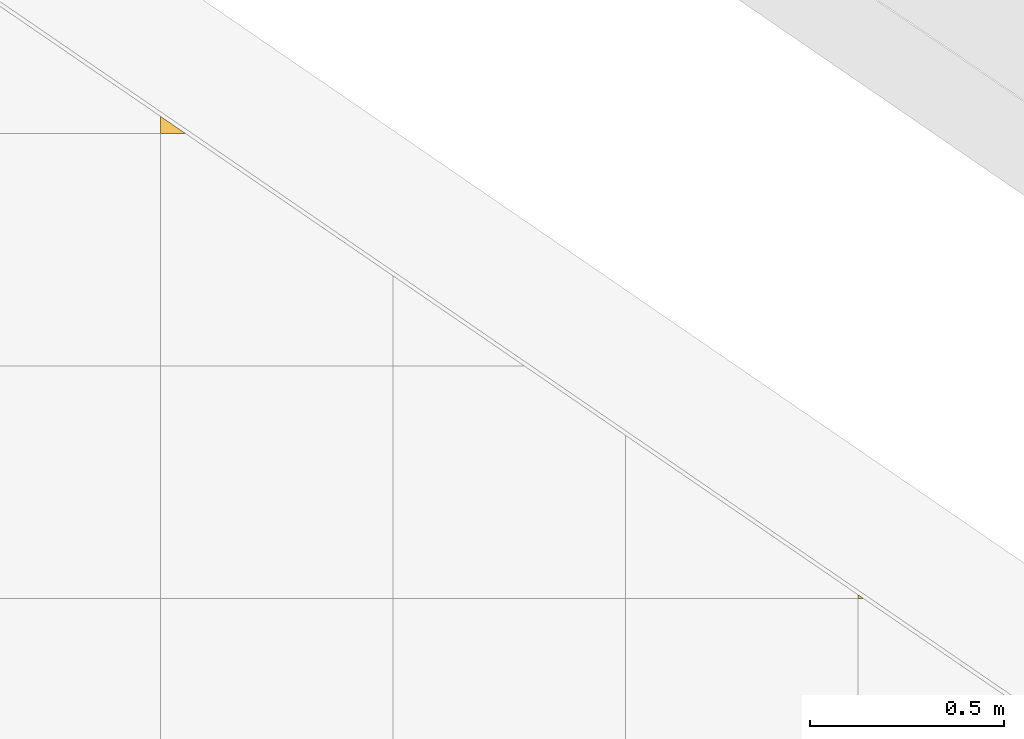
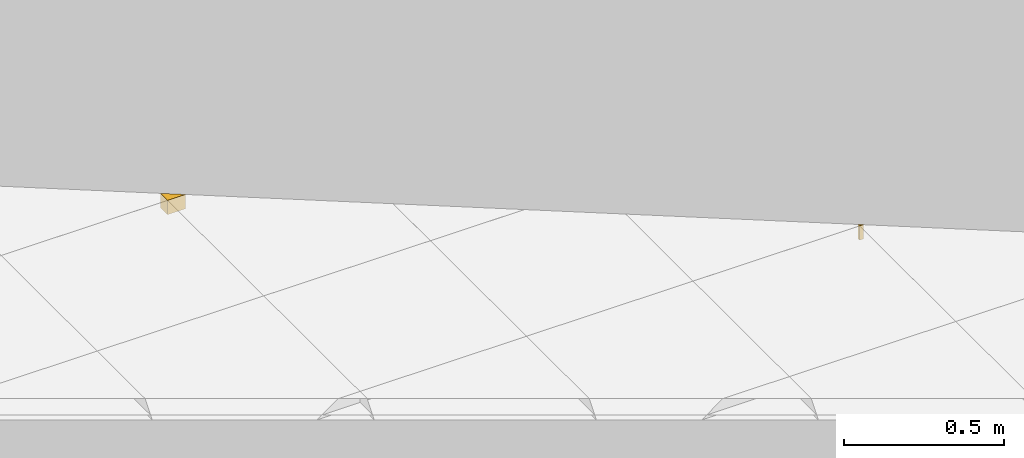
# One storey, part 201 of 246: 2 coverings.
"""IFC2X3 building model written with IfcOpenShell, lengths in millimetres."""

import ifcopenshell
import ifcopenshell.guid

model = None  # the IFC model being written
_history = None  # IfcOwnerHistory: only IFC2X3 demands one
_inside = {}  # id of a spatial element -> (the spatial element, [elements in it])
_under = {}  # id of a project, library or spatial element -> (it, [spatial elements below it])
_declared = {}  # id of a project -> (the project, [libraries it declares])
_typed = {}  # id of a type object -> (the type object, [elements of that type])
_made_of = {}  # id of a material, layer set ... -> (it, [elements and type objects made of it])


def new_model(schema):
    """Start an empty IFC model of exactly this schema.

    Asked for "IFC4X3", IfcOpenShell would pick the latest addendum, in which some entities
    have other attributes; the version numbers below select the first issue.
    IFC2X3 requires an IfcOwnerHistory on every rooted entity: one is made here for all.
    """
    global model, _history
    if schema == "IFC4X3":
        model = ifcopenshell.file(schema_version=(4, 3, 0, 0))
    else:
        model = ifcopenshell.file(schema=schema)
    _inside.clear()
    _under.clear()
    _declared.clear()
    _typed.clear()
    _made_of.clear()
    _history = None
    if model.schema == "IFC2X3":
        org = make("IfcOrganization", Name="unknown")
        user = make(
            "IfcPersonAndOrganization",
            ThePerson=make("IfcPerson", FamilyName="unknown"),
            TheOrganization=org,
        )
        app = make(
            "IfcApplication",
            ApplicationDeveloper=org,
            Version="unknown",
            ApplicationFullName="unknown",
            ApplicationIdentifier="unknown",
        )
        _history = make(
            "IfcOwnerHistory",
            OwningUser=user,
            OwningApplication=app,
            ChangeAction="ADDED",
            CreationDate=0,
        )
    return model


def make(cls, **values):
    """One entity of the class cls with the attributes given. An attribute that is None is left unset."""
    return model.create_entity(
        cls, **{name: value for name, value in values.items() if value is not None}
    )


def entity(cls, *values):
    """Any entity or typed value of the class cls, its attributes in the order of the schema. None: left unset."""
    e = model.create_entity(cls)
    for i, value in enumerate(values):
        if value is not None:
            e[i] = value
    return e


def rooted(cls, **values):
    """An entity with a GlobalId (a new one), such as an element, a storey or a relation."""
    return make(cls, GlobalId=ifcopenshell.guid.new(), OwnerHistory=_history, **values)


def si_unit(unit_type, name, prefix=None):
    """IfcSIUnit, for example si_unit("LENGTHUNIT", "METRE", prefix="MILLI")."""
    return make("IfcSIUnit", UnitType=unit_type, Prefix=prefix, Name=name)


def converted_unit(unit_type, name, factor, base, dimensions=None, offset=None):
    """IfcConversionBasedUnit, such as the inch: factor (a typed value) times the base unit."""
    return make(
        "IfcConversionBasedUnit"
        if offset is None
        else "IfcConversionBasedUnitWithOffset",
        ConversionOffset=offset,
        Dimensions=None
        if dimensions is None
        else entity("IfcDimensionalExponents", *dimensions),
        UnitType=unit_type,
        Name=name,
        ConversionFactor=make(
            "IfcMeasureWithUnit", ValueComponent=factor, UnitComponent=base
        ),
    )


def derived_unit(unit_type, elements):
    """IfcDerivedUnit: a product of units, each with its exponent."""
    return make(
        "IfcDerivedUnit",
        Elements=[
            make("IfcDerivedUnitElement", Unit=unit, Exponent=power)
            for unit, power in elements
        ],
        UnitType=unit_type,
    )


def money_unit(currency):
    """IfcMonetaryUnit."""
    return make("IfcMonetaryUnit", Currency=currency)


def assignment(units):
    """IfcUnitAssignment: the units of a project."""
    return None if units is None else make("IfcUnitAssignment", Units=units)


def point(xyz):
    """IfcCartesianPoint."""
    return None if xyz is None else make("IfcCartesianPoint", Coordinates=xyz)


def direction(xyz):
    """IfcDirection."""
    return None if xyz is None else make("IfcDirection", DirectionRatios=xyz)


def frame(location, z_axis=None, x_axis=None):
    """IfcAxis2Placement3D, a coordinate frame: its origin and axes. An axis left out is left unset."""
    return make(
        "IfcAxis2Placement3D",
        Location=point(location),
        Axis=direction(z_axis),
        RefDirection=direction(x_axis),
    )


def origin_with_axes():
    """The frame at (0, 0, 0) with the z axis (0, 0, 1) and the x axis (1, 0, 0) written out."""
    return frame((0.0, 0.0, 0.0), z_axis=(0.0, 0.0, 1.0), x_axis=(1.0, 0.0, 0.0))


def place(relative_to, where):
    """IfcLocalPlacement: puts the frame where relative to a parent placement (None: the world)."""
    return make(
        "IfcLocalPlacement", PlacementRelTo=relative_to, RelativePlacement=where
    )


def context(
    kind, dimensions, precision=None, world=None, true_north=None, identifier=None
):
    """IfcGeometricRepresentationContext, for example the 3D "Model" context."""
    return make(
        "IfcGeometricRepresentationContext",
        ContextIdentifier=identifier,
        ContextType=kind,
        CoordinateSpaceDimension=dimensions,
        Precision=precision,
        WorldCoordinateSystem=world,
        TrueNorth=true_north,
    )


def subcontext(parent, identifier, kind, view, scale=None):
    """IfcGeometricRepresentationSubContext, for example "Body" below "Model"."""
    return make(
        "IfcGeometricRepresentationSubContext",
        ContextIdentifier=identifier,
        ContextType=kind,
        ParentContext=parent,
        TargetScale=scale,
        TargetView=view,
    )


def project(units=None, contexts=None):
    """IfcProject with its units and contexts."""
    return rooted(
        "IfcProject",
        Name="project",
        RepresentationContexts=contexts,
        UnitsInContext=assignment(units),
    )


def spatial(cls, under=None, at=None, **own):
    """A site, building, storey or space (cls), placed at a placement, below another one or the project."""
    s = rooted(cls, ObjectPlacement=at, **own)
    if under is not None:
        _under.setdefault(under.id(), (under, []))[1].append(s)
    return s


def faces_of(points, faces, orient=None, outer=None):
    """IfcFace entities. A face is a list of loops; a loop is a list of indices into points, from 0.

    orient and outer hold one flag for each loop. By default every Orientation is true, the
    first loop of a face is its IfcFaceOuterBound and the others are IfcFaceBound.
    """
    made = []
    for i, loops in enumerate(faces):
        bounds = []
        for j, loop in enumerate(loops):
            is_outer = j == 0 if outer is None else outer[i][j]
            bounds.append(
                make(
                    "IfcFaceOuterBound" if is_outer else "IfcFaceBound",
                    Bound=make("IfcPolyLoop", Polygon=[points[k] for k in loop]),
                    Orientation=True if orient is None else orient[i][j],
                )
            )
        made.append(make("IfcFace", Bounds=bounds))
    return made


def faceted_brep(points, faces, orient=None, outer=None, voids=None):
    """IfcFacetedBrep: a solid bounded by flat faces; with voids (closed shells), ...WithVoids."""
    shared = [point(p) for p in points]
    hull = make("IfcClosedShell", CfsFaces=faces_of(shared, faces, orient, outer))
    if voids is None:
        return make("IfcFacetedBrep", Outer=hull)
    return make(
        "IfcFacetedBrepWithVoids",
        Outer=hull,
        Voids=[
            make(cls, CfsFaces=faces_of(shared, fs, o, b)) for cls, fs, o, b in voids
        ],
    )


def shape(context_of_items, identifier, shape_type, items):
    """IfcShapeRepresentation: the items that make up one representation, for example the "Body"."""
    return make(
        "IfcShapeRepresentation",
        ContextOfItems=context_of_items,
        RepresentationIdentifier=identifier,
        RepresentationType=shape_type,
        Items=items,
    )


def material(Name=None, Category=None):
    """IfcMaterial."""
    return make("IfcMaterial", Name=Name, Category=Category)


def material_list(materials):
    """IfcMaterialList."""
    return make("IfcMaterialList", Materials=materials)


def made_of(thing, what):
    """Note that an element or type object is made of a material, layer set ...; save() writes the relation."""
    if what is not None:
        _made_of.setdefault(what.id(), (what, []))[1].append(thing)
    return thing


def type_object(cls, material=None, **own):
    """A type object (cls), such as IfcWallType, which elements share."""
    return made_of(rooted(cls, **own), material)


def element(
    cls,
    number,
    at=None,
    inside=None,
    cuts=None,
    type_object=None,
    material=None,
    context=None,
    identifier="Body",
    shape_type=None,
    held_by="IfcProductDefinitionShape",
    body=None,
    shapes=None,
    **own,
):
    """One element of the class cls, such as IfcWall. Its Tag is "e" and its number.

    at: its placement. inside: the storey or other place that contains it. cuts: it is an
    opening in that element (IfcRelVoidsElement). A single representation is given by context,
    identifier, shape_type and body (its items); several are given by shapes. held_by: the class
    of the entity that holds the representations. save() writes the other relations.
    """
    e = rooted(cls, Tag="e%d" % number, ObjectPlacement=at, **own)
    if body is not None:
        shapes = [shape(context, identifier, shape_type, body)]
    if shapes is not None:
        e.Representation = make(held_by, Representations=shapes)
    if inside is not None:
        _inside.setdefault(inside.id(), (inside, []))[1].append(e)
    if cuts is not None:
        rooted(
            "IfcRelVoidsElement", RelatingBuildingElement=cuts, RelatedOpeningElement=e
        )
    if type_object is not None:
        _typed.setdefault(type_object.id(), (type_object, []))[1].append(e)
    return made_of(e, material)


def aggregate(whole, parts):
    """IfcRelAggregates: a whole, such as a stair, and the parts it consists of."""
    return rooted("IfcRelAggregates", RelatingObject=whole, RelatedObjects=parts)


def save(model, path):
    """Write the relations noted so far, then the file.

    IfcRelAggregates (storeys below a building ...), IfcRelContainedInSpatialStructure (elements
    in a storey), IfcRelDefinesByType, IfcRelAssociatesMaterial and IfcRelDeclares: one each for
    every whole, place, type object, material and project.
    """
    for whole, parts in _under.values():
        aggregate(whole, parts)
    for where, things in _inside.values():
        rooted(
            "IfcRelContainedInSpatialStructure",
            RelatedElements=things,
            RelatingStructure=where,
        )
    for kind, things in _typed.values():
        rooted("IfcRelDefinesByType", RelatedObjects=things, RelatingType=kind)
    for what, things in _made_of.values():
        rooted("IfcRelAssociatesMaterial", RelatedObjects=things, RelatingMaterial=what)
    for by, libraries in _declared.values():
        rooted("IfcRelDeclares", RelatingContext=by, RelatedDefinitions=libraries)
    model.write(path)


model = new_model("IFC2X3")

# Units and contexts
model_context = context("Model", 3, precision=0.01, world=origin_with_axes(), true_north=direction((0.0, 1.0)))
body_context = subcontext(model_context, "Body", "Model", "MODEL_VIEW")
ifc_project = project(units=[si_unit("LENGTHUNIT", "METRE", prefix="MILLI"), si_unit("AREAUNIT", "SQUARE_METRE"), si_unit("VOLUMEUNIT", "CUBIC_METRE"), converted_unit("PLANEANGLEUNIT", "DEGREE", entity("IfcPlaneAngleMeasure", 0.0174532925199), si_unit("PLANEANGLEUNIT", "RADIAN"), dimensions=[0, 0, 0, 0, 0, 0, 0]), si_unit("SOLIDANGLEUNIT", "STERADIAN"), money_unit("EUR"), converted_unit("TIMEUNIT", "Year", entity("IfcTimeMeasure", 31556926.0), si_unit("TIMEUNIT", "SECOND"), dimensions=[0, 0, 1, 0, 0, 0, 0]), si_unit("MASSUNIT", "GRAM", prefix="KILO"), si_unit("THERMODYNAMICTEMPERATUREUNIT", "DEGREE_CELSIUS"), si_unit("LUMINOUSINTENSITYUNIT", "LUMEN"), si_unit("ENERGYUNIT", "JOULE", prefix="MEGA"), derived_unit("THERMALCONDUCTANCEUNIT", [(si_unit("POWERUNIT", "WATT"), 1), (si_unit("LENGTHUNIT", "METRE"), -1), (si_unit("THERMODYNAMICTEMPERATUREUNIT", "KELVIN"), -1)]), derived_unit("SPECIFICHEATCAPACITYUNIT", [(si_unit("ENERGYUNIT", "JOULE"), 1), (si_unit("MASSUNIT", "GRAM", prefix="KILO"), -1), (si_unit("THERMODYNAMICTEMPERATUREUNIT", "KELVIN"), -1)]), derived_unit("MASSDENSITYUNIT", [(si_unit("MASSUNIT", "GRAM", prefix="KILO"), 1), (si_unit("VOLUMEUNIT", "CUBIC_METRE"), -1)])], contexts=[model_context])

# Site, building, storey
site_placement = place(None, origin_with_axes())
site = spatial("IfcSite", under=ifc_project, at=site_placement, Name="L.Koidula tn 11b", CompositionType="ELEMENT")
building_placement = place(site_placement, origin_with_axes())
building = spatial("IfcBuilding", under=site, at=building_placement, Name="Rakvere Riigigümnaasium", CompositionType="ELEMENT")
storey_placement = place(building_placement, origin_with_axes())
storey = spatial("IfcBuildingStorey", under=building, at=storey_placement, Name="1.korrus 0,00", CompositionType="ELEMENT", Elevation=0.0)

# Coverings
ifc_material_1 = material(Name="Karkass")
ifc_material_2 = material(Name="Kipsplaat")
ifc_material_list = material_list([ifc_material_1, ifc_material_2])
covering_type = type_object("IfcCoveringType", Name="SA-LV-Kips-moodul 55", PredefinedType="CEILING")
covering_1_placement = place(storey_placement, frame((97109.8848284, 9290.45359412, 2750.0), z_axis=(0.0, 0.0, 1.0), x_axis=(1.0, 0.0, 0.0)))
element("IfcCovering", 1, at=covering_1_placement, inside=storey, type_object=covering_type, material=ifc_material_list, Name="L-03", PredefinedType="CEILING", context=body_context, shape_type="Brep", body=[
    faceted_brep([(64.1952643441, 0.0, 12.5), (64.1952643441, 0.0, 54.5), (0.0, 0.0, 54.5), (0.0, 0.0, 12.5), (0.0, 44.0300845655, 12.5), (0.0, 44.0300845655, 54.5)], [[[0, 1, 2, 3]], [[4, 5, 1, 0]], [[2, 1, 5]], [[3, 2, 5, 4]], [[3, 4, 0]]]),
    faceted_brep([(0.0, 0.0, 0.0), (64.1952643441, 0.0, 0.0), (64.1952643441, 0.0, 12.5), (0.0, 0.0, 12.5), (0.0, 44.0300845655, 0.0), (0.0, 44.0300845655, 12.5)], [[[0, 1, 2, 3]], [[0, 4, 1]], [[1, 4, 5, 2]], [[3, 2, 5]], [[4, 0, 3, 5]]]),
])
covering_2_placement = place(storey_placement, frame((98909.8847768, 8090.45359412, 2750.0), z_axis=(0.0, 0.0, 1.0), x_axis=(1.0, 0.0, 0.0)))
element("IfcCovering", 2, at=covering_2_placement, inside=storey, type_object=covering_type, material=ifc_material_list, Name="L-03", PredefinedType="CEILING", context=body_context, shape_type="Brep", body=[
    faceted_brep([(13.7789920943, 0.0, 12.5), (13.7789920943, 0.0, 54.5), (0.0, 0.0, 54.5), (0.0, 0.0, 12.5), (0.0, 9.45070003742, 12.5), (0.0, 9.45070003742, 54.5)], [[[0, 1, 2, 3]], [[4, 5, 1, 0]], [[2, 1, 5]], [[3, 2, 5, 4]], [[3, 4, 0]]]),
    faceted_brep([(0.0, 0.0, 0.0), (13.7789920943, 0.0, 0.0), (13.7789920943, 0.0, 12.5), (0.0, 0.0, 12.5), (0.0, 9.45070003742, 0.0), (0.0, 9.45070003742, 12.5)], [[[0, 1, 2, 3]], [[0, 4, 1]], [[1, 4, 5, 2]], [[3, 2, 5]], [[4, 0, 3, 5]]]),
])

save(model, "model.ifc")
